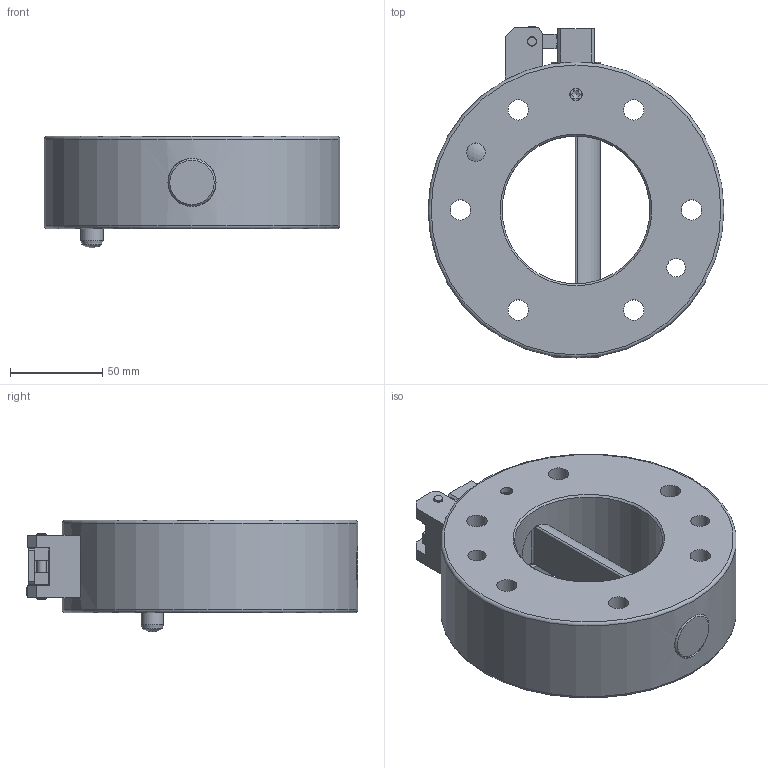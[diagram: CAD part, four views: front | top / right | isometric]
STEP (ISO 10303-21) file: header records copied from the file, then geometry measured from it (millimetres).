
FILE_DESCRIPTION(/* description */ (''),/* implementation_level */ '2;1');
FILE_NAME(/* name */ '\\dc01\daten\CAD\Standard\Daten\3D-Datenbank\Webseite 2020\SWS\160\G-SWS160-2O.stp',/* time_stamp */ '2020-05-05T13:19:03+02:00',/* author */ ('ysplieth'),/* organization */ (''),/* preprocessor_version */ 'ST-DEVELOPER v17',/* originating_system */ 'Autodesk Inventor 2018',/* authorisation */ '');
FILE_SCHEMA (('AUTOMOTIVE_DESIGN { 1 0 10303 214 3 1 1 }'));
Length unit declared in the file: millimetre
Products named in the file (1): G-SWS160-2O
Bounding box: 160 x 179.55 x 60.33 mm (x, y, z)
Volume: 747847.2 mm3; surface area: 109702.4 mm2
Topology: 10 solids, 10 shells, 171 faces, 453 edges, 312 vertices
Faces by surface type: plane 87, cylinder 51, cone 19, torus 8, bspline 4, sphere 2
Full cylindrical faces by diameter (mm): 3.242 x3, 4 x3, 4.5 x2, 5 x3, 5.1 x2, 5.5 x1, 6.647 x2, 7 x2, 8 x3, 10 x2, 11 x6, 12 x2, 18 x6, 26 x3, 80 x1, 160 x1
Entity records: 6146 total; most frequent: CARTESIAN_POINT 1537, DIRECTION 909, ORIENTED_EDGE 894, EDGE_CURVE 447, AXIS2_PLACEMENT_3D 354, VERTEX_POINT 312, EDGE_LOOP 227, LINE 201
